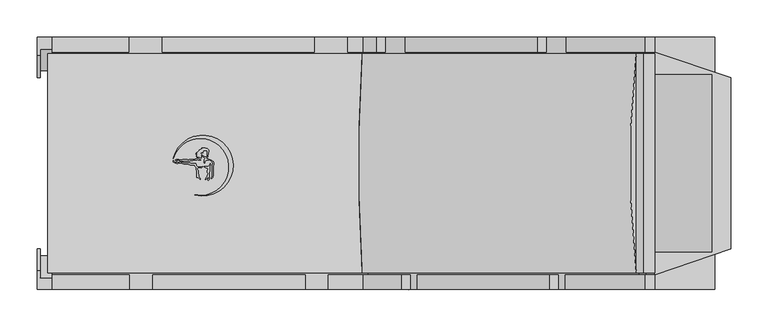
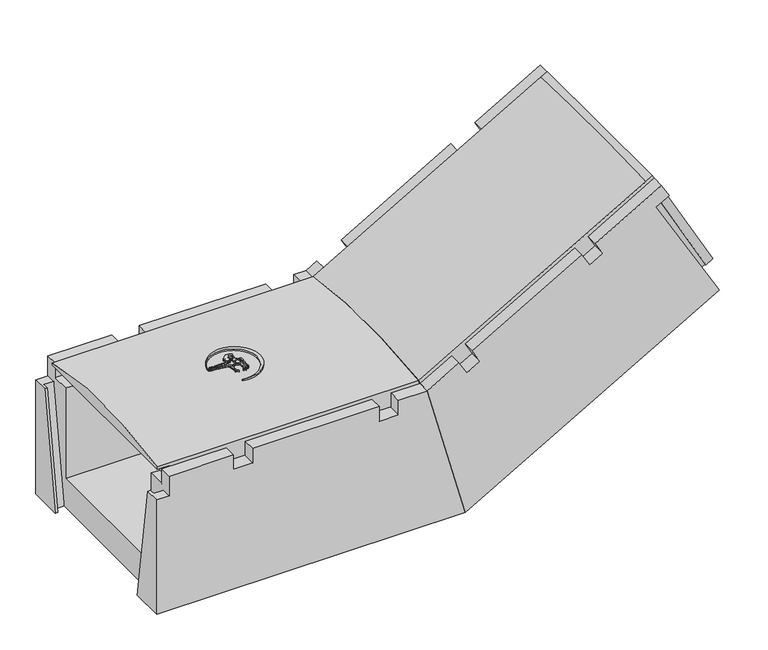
"""IFC4 building model written with IfcOpenShell, lengths in millimetres: cable carrier fitting geometry, Evotray type 2 vertical bend up : Evotray type 2 vertical bend up."""

from ifc_helpers import new_model, si_unit, point, frame, frame_2d, origin, place, context, project, spatial, polyline, circle_curve, ellipse_curve, trimmed, segment, composite_curve, outline, extrude, faceted_brep, source, transform, mapped, element, save
from ifc_brep_helpers import plane_surface, cylinder_surface, advanced_brep


def cable_carrier_fitting_ba2b0b58(model_context):
    return source(origin(), model_context, "Body", "SolidModel", [
        extrude(outline(composite_curve([segment(polyline([(-155.1987673, 5.907559), (-153.7730763, 5.0844359), (-154.4820077, 4.6751342), (-157.0469375, 4.6751342), (-159.5064308, 2.2156409), (-159.5064308, 0.6319729), (-160.5639447, 0.3486129), (-160.8953119, 1.5852919), (-160.5730905, 2.7878385), (-160.5730905, 5.0146536), (-159.1065498, 6.4811943), (-159.5064308, 7.1738084), (-160.5730905, 7.7896447), (-161.4313624, 8.2851682), (-162.4244859, 9.2782918), (-162.4244859, 10.5283487), (-161.6366917, 10.0735155), (-160.5730905, 9.0099142), (-159.5064308, 8.394078), (-157.1936661, 8.394078), (-156.5617675, 9.0259766), (-156.5617675, 10.6343813), (-156.1559104, 11.3373462), (-155.9163405, 12.2314336), (-155.9163405, 16.3268685), (-156.5617675, 16.9722955), (-160.5730905, 17.3232408), (-161.3212546, 16.8912881), (-161.7531031, 16.1433045), (-161.9754965, 15.313321), (-162.2482129, 13.7666695), (-162.8042347, 14.3226912), (-163.3698905, 14.8883471), (-164.3304254, 14.8883471), (-164.8048648, 14.0665939), (-164.8048648, 13.2416885), (-164.4028177, 12.5453225), (-163.675123, 11.8176278), (-164.0717623, 10.3373496), (-164.4092623, 9.0777826), (-164.1064549, 7.3604762), (-164.907248, 7.2192748), (-166.6376932, 7.6829462), (-167.8844025, 8.2642963), (-168.6376597, 8.6155459), (-170.2371082, 8.33352), (-169.7695498, 9.1433549), (-168.1127288, 9.7463885)]), True, "CONTINUOUS"), segment(trimmed(circle_curve(frame_2d((-168.6788564, 9.4744491)), 0.6280537), [point((-168.1127288, 9.7463885))], [point((-168.8344386, 10.0829273))], True, "CARTESIAN"), True, "CONTINUOUS"), segment(polyline([(-168.8344386, 10.0829273), (-170.7814537, 10.0829273), (-170.2232755, 10.6411054), (-169.3724958, 10.9507639), (-168.5540563, 11.2486515)]), True, "CONTINUOUS"), segment(trimmed(circle_curve(frame_2d((-169.2923812, 11.2486515)), 0.7383249), [point((-168.5540563, 11.2486515))], [point((-169.2923812, 11.9869764))], True, "CARTESIAN"), True, "CONTINUOUS"), segment(polyline([(-169.2923812, 11.9869764), (-171.0001288, 11.9869764), (-171.3916504, 12.6651117), (-169.5730583, 12.9857785), (-168.2767203, 13.457607), (-168.897473, 14.0783597), (-170.8606925, 14.0783597), (-170.30811, 14.6309421), (-169.2782773, 15.2255163), (-168.603553, 15.9002407), (-167.8807357, 16.3175594), (-166.9057237, 16.8804829)]), True, "CONTINUOUS"), segment(trimmed(circle_curve(frame_2d((-167.1167091, 17.2459203)), 0.4219708), [point((-166.9057237, 16.8804829))], [point((-167.3276945, 17.6113577))], True, "CARTESIAN"), True, "CONTINUOUS"), segment(polyline([(-167.3276945, 17.6113577), (-166.7102978, 18.2287544), (-165.4076278, 18.7028875), (-164.4125713, 19.2773836), (-163.2810347, 19.4769041), (-163.6348604, 20.4490324), (-158.6348604, 20.4490324), (-157.6206866, 19.9761154), (-156.4988316, 19.6755153), (-155.4843855, 19.0898245), (-154.3757091, 17.9811481), (-154.3757091, 15.4151328), (-154.8646262, 14.5683035), (-154.8646262, 11.8362675), (-155.3536612, 10.7875287), (-155.760463, 10.0829273), (-155.760463, 8.2341629), (-156.5617675, 7.7715296), (-157.3950459, 7.6246001)]), True, "CONTINUOUS"), segment(trimmed(circle_curve(frame_2d((-156.3420944, 7.3424626)), 1.0900956), [point((-157.3950459, 7.6246001))], [point((-156.6242319, 6.2895111))], True, "CARTESIAN"), True, "CONTINUOUS"), segment(polyline([(-156.6242319, 6.2895111), (-155.1987673, 5.907559)]), True, "CONTINUOUS")], self_intersect=False)), frame((0.0, 0.0, 229.0645802), z_axis=(0.0, 0.0, 1.0), x_axis=(1.0, 0.0, 0.0)), (0.0, 0.0, 1.0), 22.5),
        extrude(outline(polyline([(-150.6420581, 3.0525563), (-152.5647021, 4.1625953), (-151.375462, 4.4812513), (-150.0006066, 3.9808448), (-147.8744575, 2.753312), (-147.462808, 1.2170154), (-147.462808, -1.5561738), (-147.8811889, -3.9289297), (-148.2073261, -13.2682758), (-148.2073261, -16.1231727), (-148.766974, -19.297094), (-149.9259981, -20.4561181), (-150.8234867, -20.4561181), (-150.1486125, -18.6019165), (-149.8396569, -16.8497423), (-149.3251997, -13.9321102), (-149.3251997, -2.6926455), (-148.883565, -0.1880111), (-149.4260419, 1.8365401), (-150.6420581, 3.0525563)])), frame((0.0, 0.0, 229.0645802), z_axis=(0.0, 0.0, 1.0), x_axis=(1.0, 0.0, 0.0)), (0.0, 0.0, 1.0), 22.5),
        extrude(outline(composite_curve([segment(polyline([(-158.070307, -4.5554644), (-156.0881056, -4.5554644), (-154.6198413, -4.2965698), (-153.3145593, -2.9912878), (-152.1344504, -0.4605362), (-151.6534984, -1.7819409), (-152.2762062, -3.117342), (-152.9468137, -4.5554644), (-152.9468137, -10.5136603), (-153.3751928, -12.943119), (-153.3751928, -21.4242609), (-154.8238515, -22.8729196), (-155.3965887, -22.3001824), (-154.7178687, -20.5578122), (-154.4597233, -19.0937972)]), True, "CONTINUOUS"), segment(trimmed(circle_curve(frame_2d((-154.8743713, -19.0937972)), 0.414648), [point((-154.4597233, -19.0937972))], [point((-155.2890194, -19.0937972))], True, "CARTESIAN"), True, "CONTINUOUS"), segment(polyline([(-155.2890194, -19.0937972), (-156.0547081, -19.8594859), (-157.3215546, -21.3692548), (-157.9770637, -22.0247639), (-158.7693849, -21.6552984), (-156.605165, -18.4467105), (-156.2992553, -16.7118106), (-155.4571975, -14.9060116), (-155.19999, -13.4473154), (-155.9884987, -12.0815782), (-155.9884987, -9.315031), (-154.6653502, -7.4454743)]), True, "CONTINUOUS"), segment(trimmed(circle_curve(frame_2d((-155.0024552, -7.2068937)), 0.4129897), [point((-154.6653502, -7.4454743))], [point((-155.2410358, -6.8697887))], True, "CARTESIAN"), True, "CONTINUOUS"), segment(polyline([(-155.2410358, -6.8697887), (-157.2448508, -6.516462), (-158.6887473, -5.843162), (-160.508748, -4.9944818), (-160.508748, -4.1255015), (-158.070307, -4.5554644)]), True, "CONTINUOUS")], self_intersect=False)), frame((0.0, 0.0, 229.0645802), z_axis=(0.0, 0.0, 1.0), x_axis=(1.0, 0.0, 0.0)), (0.0, 0.0, 1.0), 22.5),
        extrude(outline(composite_curve([segment(polyline([(-200.4819029, 2.2537302), (-198.7462291, 1.4443722), (-194.5597552, 1.4443722), (-193.4890341, 1.731271), (-192.1624965, 1.731271), (-190.4413877, 1.4443722), (-188.4350656, 0.9067798), (-187.2818775, 0.597784), (-181.5899708, 0.597784), (-178.9734749, 0.1616293), (-177.6459123, -0.19409), (-172.03167, -0.19409)]), True, "CONTINUOUS"), segment(trimmed(circle_curve(frame_2d((-163.1781038, 2.7115165)), 9.3181642), [point((-172.03167, -0.19409))], [point((-168.6774022, -4.8108435))], True, "CARTESIAN"), True, "CONTINUOUS"), segment(polyline([(-168.6774022, -4.8108435), (-165.6256174, -4.8108435), (-163.5910388, -4.632841), (-162.4520349, -4.1017147), (-162.7095548, -5.0627921), (-163.6536491, -5.6078652), (-164.612336, -5.9567987), (-167.847041, -5.8438403), (-169.0357356, -6.2764898), (-169.44473, -7.153581), (-169.3696494, -8.0117562), (-168.8907652, -8.8412079), (-168.1701597, -9.5618134), (-168.1701597, -11.3180259), (-168.53546, -12.3216801), (-168.3911934, -13.970655), (-167.8861011, -15.8556852), (-167.737982, -17.5486944), (-165.3666469, -20.2766033), (-165.5753239, -21.4600691), (-168.1701597, -18.8652332), (-169.1329913, -19.1232231), (-170.5361675, -18.8758053), (-170.2606072, -18.1187094), (-170.2606072, -15.8446539), (-170.0850033, -14.8487551), (-170.2606072, -12.8415943), (-170.6362696, -11.8094702), (-170.6362696, -9.9842873), (-171.0826053, -9.0271173), (-171.0826053, -6.6493678), (-171.3310455, -5.7221762), (-171.7830159, -4.9393406), (-172.2317276, -4.1621491), (-172.84617, -3.5477067), (-173.2800213, -2.6173096), (-176.8809595, -2.4915621), (-179.2251115, -2.1008055), (-181.2577048, -1.5561738), (-184.5993244, -1.2049554), (-186.6789374, -1.2049554), (-188.021172, -0.8453047), (-189.5447671, -0.4370587), (-190.8880204, 0.1893106), (-191.8824091, 0.1893106), (-194.5338495, 0.1893106), (-195.6460936, -0.1087143), (-197.5093755, 0.0871245), (-198.9984504, 0.3353447), (-200.6717579, 1.1156208), (-201.6476843, 2.0915471), (-202.2867674, 2.7306302), (-202.2867674, 3.5175099), (-200.4819029, 2.2537302)]), True, "CONTINUOUS")], self_intersect=False)), frame((0.0, 0.0, 229.0645802), z_axis=(0.0, 0.0, 1.0), x_axis=(1.0, 0.0, 0.0)), (0.0, 0.0, 1.0), 22.5),
        extrude(outline(composite_curve([segment(polyline([(-197.9796703, 3.7977023), (-196.956356, 3.2068915), (-198.6840165, 3.7265624), (-199.014163, 4.6441261), (-198.1758386, 5.4824506), (-195.30302, 5.4824506), (-194.318583, 5.0847122), (-193.2280942, 4.6441261), (-192.4299007, 4.1832889), (-191.1696706, 4.1832889), (-190.3486455, 4.4787), (-189.4633932, 4.9898007), (-183.0496883, 4.9898007), (-182.1941137, 4.6441261), (-181.1237116, 4.6441261), (-180.1629915, 4.9898007), (-178.9838348, 4.9898007), (-178.2654957, 5.4045339), (-172.8528405, 5.4045339), (-172.0925598, 5.6780888), (-170.8504018, 5.6780888), (-170.2746333, 6.2538574), (-168.3170698, 6.2538574), (-167.0290688, 5.7334711), (-166.0171524, 5.1492409), (-165.2127113, 4.8242256)]), True, "CONTINUOUS"), segment(trimmed(circle_curve(frame_2d((-165.6200436, 4.6596527)), 0.4393221), [point((-165.2127113, 4.8242256))], [point((-165.7846166, 4.2523203))], False, "CARTESIAN"), True, "CONTINUOUS"), segment(polyline([(-165.7846166, 4.2523203), (-166.8003453, 4.6627013), (-168.112003, 4.6627013), (-169.382433, 4.8867124), (-170.1944574, 4.5945398), (-171.3374314, 4.1832889), (-174.6816293, 4.1832889), (-175.4727027, 3.7265624), (-179.0400229, 3.7265624), (-179.9228853, 3.2168416), (-189.9228853, 3.2168416), (-192.5335493, 2.9884381), (-196.222077, 4.4787), (-198.3728446, 4.4787), (-197.9796703, 3.7977023)]), True, "CONTINUOUS")], self_intersect=False)), frame((0.0, 0.0, 229.0645802), z_axis=(0.0, 0.0, 1.0), x_axis=(1.0, 0.0, 0.0)), (0.0, 0.0, 1.0), 22.5),
        extrude(outline(composite_curve([segment(trimmed(circle_curve(frame_2d((-165.3994103, -4.8721323)), 38.3616107), [point((-172.8072471, -42.511701))], [point((-202.1109456, 6.2578432))], True, "CARTESIAN"), True, "CONTINUOUS"), segment(trimmed(circle_curve(frame_2d((-162.2700096, -2.9917986)), 40.900563), [point((-202.1109456, 6.2578432))], [point((-172.8072471, -42.511701))], False, "CARTESIAN"), True, "CONTINUOUS")], self_intersect=False)), frame((0.0, 0.0, 229.0645802), z_axis=(0.0, 0.0, 1.0), x_axis=(1.0, 0.0, 0.0)), (0.0, 0.0, 1.0), 22.5),
        advanced_brep(
        [(60.0704156, -147.5, 205.0), (445.5127019, -147.5, 427.5352078), (431.0247302, -147.5, 452.6291108), (420.6324254, -147.5, 446.6291108), (52.299889, -147.5, 234.0), (445.5127019, 147.5, 427.5352078), (60.0704156, 147.5, 205.0), (52.299889, 147.5, 234.0), (420.620397, 147.5, 446.6499445), (431.0247302, 147.5, 452.6291108)],
        [
            (0, 1),
            (1, 2),
            (2, 3),
            (3, 4),
            (4, 0),
            (5, 6),
            (6, 7),
            (7, 8),
            (8, 9),
            (9, 5),
            (1, 5),
            (9, 2),
            (6, 0),
            (4, 7, ellipse_curve(frame((222.6174178, 0.0, -401.633671), z_axis=(-0.965925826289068, 0.0, -0.2588190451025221), x_axis=(-0.25881904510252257, 0.0, 0.9659258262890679)), 675.5416366, 652.5231135)),
            (8, 3),
            (8, 3, circle_curve(frame((738.4372325, 0.0, -103.8249621), z_axis=(0.8660254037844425, 0.0, 0.49999999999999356), x_axis=(0.0, -1.0, 0.0)), 652.5231135)),
        ],
        [
            plane_surface(frame((445.5127019, -147.5, 427.5352078), z_axis=(0.0, -1.0, 0.0), x_axis=(-0.4999999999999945, 0.0, 0.8660254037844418))),
            plane_surface(frame((445.5127019, 147.5, 427.5352078), z_axis=(0.0, 1.0, 0.0), x_axis=(0.4999999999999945, 0.0, -0.8660254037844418))),
            plane_surface(frame((445.5127019, -147.5, 427.5352078), z_axis=(0.8660254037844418, 0.0, 0.4999999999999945), x_axis=(0.0, 1.0, 0.0))),
            plane_surface(frame((47.7447527, -147.5, 251.0), z_axis=(-0.965925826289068, 0.0, -0.2588190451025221), x_axis=(0.0, 1.0, 0.0))),
            plane_surface(frame((60.0704156, -147.5, 205.0), z_axis=(0.4999999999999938, 0.0, -0.8660254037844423), x_axis=(0.0, 1.0, 0.0))),
            plane_surface(frame((431.0247302, -147.5, 452.6291108), z_axis=(-0.49999999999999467, 0.0, 0.8660254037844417), x_axis=(-0.8660254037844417, 0.0, -0.49999999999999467))),
            plane_surface(frame((420.6324254, -147.5, 446.6291108), z_axis=(0.8660254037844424, 0.0, 0.4999999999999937), x_axis=(-0.4999999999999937, 0.0, 0.8660254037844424))),
            cylinder_surface(frame((368.7244196, 0.0, -317.2787542), z_axis=(0.8660254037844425, 0.0, 0.49999999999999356), x_axis=(0.0, -1.0, 0.0)), 652.5231135),
        ],
        [
            (0, [[1, 2, 3, 4, 5]]),
            (1, [[6, 7, 8, 9, 10]]),
            (2, [[11, -10, 12, -2]]),
            (3, [[13, -5, 14, -7]]),
            (4, [[-1, -13, -6, -11]]),
            (5, [[15, -3, -12, -9]]),
            (6, [[-15, 16]]),
            (7, [[-4, -16, -8, -14]]),
        ],
    ),
        advanced_brep(
        [(-351.0, -147.5, 205.0), (60.0704156, -147.5, 205.0), (52.299889, -147.5, 234.0), (-371.0, -147.5, 234.0), (-371.0, -147.5, 230.0), (-351.0, -147.5, 230.0), (60.0704156, 147.5, 205.0), (-351.0, 147.5, 205.0), (-351.0, 147.5, 230.0), (-371.0, 147.5, 230.0), (-371.0, 147.5, 234.0), (52.299889, 147.5, 234.0)],
        [
            (0, 1),
            (1, 2),
            (2, 3),
            (3, 4),
            (4, 5),
            (5, 0),
            (6, 7),
            (7, 8),
            (8, 9),
            (9, 10),
            (10, 11),
            (11, 6),
            (9, 4),
            (3, 10, circle_curve(frame((-371.0, 0.0, -401.633671), z_axis=(-1.0, 0.0, 0.0), x_axis=(0.0, -1.0, 0.0)), 652.5231135)),
            (6, 1),
            (0, 7),
            (11, 2, ellipse_curve(frame((222.6174178, 0.0, -401.633671), z_axis=(0.9659258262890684, 0.0, 0.25881904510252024), x_axis=(0.25881904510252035, 0.0, -0.9659258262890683)), 675.5416366, 652.5231135)),
            (8, 5),
        ],
        [
            plane_surface(frame((-371.0, -147.5, 205.0), z_axis=(0.0, -1.0, 0.0), x_axis=(0.0, 0.0, -1.0))),
            plane_surface(frame((-371.0, 147.5, 205.0), z_axis=(0.0, 1.0, 0.0), x_axis=(0.0, 0.0, 1.0))),
            plane_surface(frame((-371.0, -147.5, 251.0), z_axis=(-1.0, 0.0, 0.0), x_axis=(0.0, 1.0, 0.0))),
            plane_surface(frame((-371.0, -147.5, 205.0), z_axis=(0.0, 0.0, -1.0), x_axis=(0.0, 1.0, 0.0))),
            plane_surface(frame((60.0704156, -147.5, 205.0), z_axis=(0.9659258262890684, 0.0, 0.25881904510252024), x_axis=(0.0, 1.0, 0.0))),
            plane_surface(frame((-371.0, 147.5, 230.0), z_axis=(0.0, 0.0, -1.0), x_axis=(-1.0, 0.0, 0.0))),
            plane_surface(frame((-351.0, -147.5, 230.0), z_axis=(-1.0, 0.0, 0.0), x_axis=(0.0, 0.0, -1.0))),
            cylinder_surface(frame((-371.0, 0.0, -401.633671), z_axis=(1.0, 0.0, 0.0), x_axis=(0.0, -1.0, 0.0)), 652.5231135),
        ],
        [
            (0, [[1, 2, 3, 4, 5, 6]]),
            (1, [[7, 8, 9, 10, 11, 12]]),
            (2, [[13, -4, 14, -10]]),
            (3, [[15, -1, 16, -7]]),
            (4, [[-15, -12, 17, -2]]),
            (5, [[18, -5, -13, -9]]),
            (6, [[-18, -8, -16, -6]]),
            (7, [[-3, -17, -11, -14]]),
        ],
    ),
        faceted_brep([(53.3716857, -170.0, 230.0), (115.0, -170.0, 0.0), (526.3620668, -170.0, 237.5), (423.8620668, -170.0, 415.0352078), (445.5127019, -170.0, 427.5352078), (433.0127019, -170.0, 449.1858429), (325.6255518, -170.0, 387.1858429), (338.1255518, -170.0, 365.5352078), (316.4749167, -170.0, 353.0352078), (303.9749167, -170.0, 374.6858429), (126.439709, -170.0, 272.1858429), (138.939709, -170.0, 250.5352078), (117.2890739, -170.0, 238.0352078), (104.7890739, -170.0, 259.6858429), (115.0, 170.0, 0.0), (53.3716857, 170.0, 230.0), (71.0140831, 170.0, 240.1858429), (83.5140831, 170.0, 218.5352078), (122.4852263, 170.0, 241.0352078), (109.9852263, 170.0, 262.6858429), (287.5204341, 170.0, 365.1858429), (300.0204341, 170.0, 343.5352078), (338.9915772, 170.0, 366.0352078), (326.4915772, 170.0, 387.6858429), (433.0127019, 170.0, 449.1858429), (445.5127019, 170.0, 427.5352078), (423.8620668, 170.0, 415.0352078), (526.3620668, 170.0, 237.5), (445.5127019, -120.0, 427.5352078), (445.5127019, -150.0, 427.5352078), (548.0127019, -115.4, 250.0), (548.0127019, 115.4, 250.0), (445.5127019, 150.0, 427.5352078), (445.5127019, 120.0, 427.5352078), (523.0127019, 120.0, 293.3012702), (523.0127019, -120.0, 293.3012702), (433.0127019, -150.0, 449.1858429), (433.0127019, 150.0, 449.1858429), (303.9749167, -150.0, 374.6858429), (126.439709, -150.0, 272.1858429), (109.9852263, 150.0, 262.6858429), (287.5204341, 150.0, 365.1858429), (325.6255518, -150.0, 387.1858429), (326.4915772, 150.0, 387.6858429), (53.3716857, -150.0, 230.0), (104.7890739, -150.0, 259.6858429), (53.3716857, 150.0, 230.0), (71.0140831, 150.0, 240.1858429), (60.0704156, -150.0, 205.0), (60.0704156, -120.0, 205.0), (101.6025404, -120.0, 50.0), (101.6025404, 120.0, 50.0), (60.0704156, 120.0, 205.0), (60.0704156, 150.0, 205.0), (526.3620668, 113.0, 237.5), (536.7543716, 113.0, 243.5), (536.7543716, 115.4, 243.5), (536.7543716, -115.4, 243.5), (536.7543716, -113.0, 243.5), (526.3620668, -113.0, 237.5), (434.2543716, -150.0, 421.0352078), (423.8620668, -150.0, 415.0352078), (338.1255518, -150.0, 365.5352078), (316.4749167, -150.0, 353.0352078), (138.939709, -150.0, 250.5352078), (117.2890739, -150.0, 238.0352078), (338.9915772, 150.0, 366.0352078), (423.8620668, 150.0, 415.0352078), (434.2543716, 150.0, 421.0352078), (122.4852263, 150.0, 241.0352078), (300.0204341, 150.0, 343.5352078), (83.5140831, 150.0, 218.5352078), (423.8620668, -147.6, 415.0352078), (434.2543716, -147.6, 421.0352078), (434.2543716, 147.6, 421.0352078), (423.8620668, 147.6, 415.0352078)], [[[0, 1, 2, 3, 4, 5, 6, 7, 8, 9, 10, 11, 12, 13]], [[14, 15, 16, 17, 18, 19, 20, 21, 22, 23, 24, 25, 26, 27]], [[28, 29, 30, 31, 32, 33, 34, 35]], [[36, 5, 4, 29]], [[24, 37, 32, 25]], [[10, 9, 38, 39]], [[20, 19, 40, 41]], [[5, 36, 42, 6]], [[37, 24, 23, 43]], [[44, 0, 13, 45]], [[15, 46, 47, 16]], [[1, 0, 44, 48, 49, 50, 51, 52, 53, 46, 15, 14]], [[1, 14, 27, 54, 55, 56, 31, 30, 57, 58, 59, 2]], [[36, 29, 60, 61, 62, 42]], [[39, 38, 63, 64]], [[48, 44, 45, 65]], [[32, 37, 43, 66, 67, 68]], [[41, 40, 69, 70]], [[46, 53, 71, 47]], [[49, 48, 65, 12, 11, 64, 63, 8, 7, 62, 61, 72, 73, 60, 29, 28]], [[53, 52, 33, 32, 68, 74, 75, 67, 66, 22, 21, 70, 69, 18, 17, 71]], [[35, 50, 49, 28]], [[51, 34, 33, 52]], [[50, 35, 34, 51]], [[60, 29, 4, 3, 61]], [[29, 60, 57, 30]], [[32, 68, 67, 26, 25]], [[68, 32, 31, 56]], [[58, 73, 72, 59]], [[59, 72, 61, 3, 2]], [[73, 58, 57, 60]], [[54, 75, 74, 55]], [[75, 54, 27, 26, 67]], [[55, 74, 68, 56]], [[70, 21, 20, 41]], [[22, 66, 43, 23]], [[62, 7, 6, 42]], [[8, 63, 38, 9]], [[71, 17, 16, 47]], [[18, 69, 40, 19]], [[64, 11, 10, 39]], [[12, 65, 45, 13]]]),
        faceted_brep([(-385.0, -170.0, 0.0), (115.0, -170.0, 0.0), (53.3716857, -170.0, 230.0), (6.6963481, -170.0, 230.0), (6.6963481, -170.0, 205.0), (-24.6518259, -170.0, 205.0), (-24.6518259, -170.0, 230.0), (-229.6518259, -170.0, 230.0), (-229.6518259, -170.0, 205.0), (-261.0, -170.0, 205.0), (-261.0, -170.0, 230.0), (-365.0130369, -170.0, 230.0), (-365.0130369, -170.0, 196.0), (-385.0, -170.0, 196.0), (53.3716857, 170.0, 230.0), (115.0, 170.0, 0.0), (-385.0, 170.0, 0.0), (-385.0, 170.0, 196.0), (-365.0130369, 170.0, 196.0), (-365.0130369, 170.0, 230.0), (-262.0, 170.0, 230.0), (-262.0, 170.0, 205.0), (-217.0, 170.0, 205.0), (-217.0, 170.0, 230.0), (-12.0, 170.0, 230.0), (-12.0, 170.0, 205.0), (33.0, 170.0, 205.0), (33.0, 170.0, 230.0), (-24.6518259, -150.0, 230.0), (-229.6518259, -150.0, 230.0), (-217.0, 150.0, 230.0), (-12.0, 150.0, 230.0), (53.3716857, -150.0, 230.0), (6.6963481, -150.0, 230.0), (53.3716857, 150.0, 230.0), (33.0, 150.0, 230.0), (-365.0130369, -150.0, 230.0), (-261.0, -150.0, 230.0), (-365.0130369, 150.0, 230.0), (-262.0, 150.0, 230.0), (-385.0, -115.45, 0.0), (-385.0, -144.8926087, 196.0), (-385.0, 115.45, 0.0), (-385.0, 144.8926087, 196.0), (-381.0, -115.45, 0.0), (-381.0, -124.6, 0.0), (-365.0, -124.6, 0.0), (-365.0, 124.6, 0.0), (-381.0, 124.6, 0.0), (-381.0, 115.45, 0.0), (60.0704156, 150.0, 205.0), (60.0704156, 120.0, 205.0), (101.6025404, 120.0, 50.0), (101.6025404, -120.0, 50.0), (60.0704156, -120.0, 205.0), (60.0704156, -150.0, 205.0), (-381.0, 144.8926087, 196.0), (-381.0, -144.8926087, 196.0), (-365.0, 154.0426087, 196.0), (-381.0, 154.0426087, 196.0), (-381.0, -154.0426087, 196.0), (-365.0, -154.0426087, 196.0), (-365.0, -150.0, 205.0), (-365.0, -147.5, 205.0), (-365.0, -120.0, 205.0), (-365.0, -120.0, 50.0), (-365.0, 120.0, 50.0), (-365.0, 120.0, 205.0), (-365.0, 147.5, 205.0), (-365.0, 150.0, 205.0), (-24.6518259, -150.0, 205.0), (-229.6518259, -150.0, 205.0), (6.6963481, -150.0, 205.0), (-261.0, -150.0, 205.0), (-217.0, 150.0, 205.0), (-12.0, 150.0, 205.0), (33.0, 150.0, 205.0), (-262.0, 150.0, 205.0), (-351.0, 120.0, 205.0), (-351.0, -120.0, 205.0)], [[[0, 1, 2, 3, 4, 5, 6, 7, 8, 9, 10, 11, 12, 13]], [[14, 15, 16, 17, 18, 19, 20, 21, 22, 23, 24, 25, 26, 27]], [[7, 6, 28, 29]], [[24, 23, 30, 31]], [[2, 32, 33, 3]], [[34, 14, 27, 35]], [[36, 11, 10, 37]], [[19, 38, 39, 20]], [[40, 0, 13, 41]], [[16, 42, 43, 17]], [[1, 0, 40, 44, 45, 46, 47, 48, 49, 42, 16, 15]], [[2, 1, 15, 14, 34, 50, 51, 52, 53, 54, 55, 32]], [[42, 49, 56, 43]], [[44, 40, 41, 57]], [[48, 47, 58, 59]], [[45, 44, 57, 60]], [[49, 48, 59, 56]], [[46, 45, 60, 61]], [[47, 46, 61, 12, 11, 36, 62, 63, 64, 65, 66, 67, 68, 69, 38, 19, 18, 58]], [[12, 61, 60, 57, 41, 13]], [[58, 18, 17, 43, 56, 59]], [[29, 28, 70, 71]], [[32, 55, 72, 33]], [[62, 36, 37, 73]], [[31, 30, 74, 75]], [[50, 34, 35, 76]], [[38, 69, 77, 39]], [[51, 50, 76, 26, 25, 75, 74, 22, 21, 77, 69, 68, 67, 78]], [[55, 54, 79, 64, 63, 62, 73, 9, 8, 71, 70, 5, 4, 72]], [[53, 65, 64, 79, 54]], [[66, 52, 51, 78, 67]], [[65, 53, 52, 66]], [[77, 21, 20, 39]], [[22, 74, 30, 23]], [[9, 73, 37, 10]], [[71, 8, 7, 29]], [[75, 25, 24, 31]], [[26, 76, 35, 27]], [[5, 70, 28, 6]], [[72, 4, 3, 33]]]),
    ])


if __name__ == "__main__":
    model = new_model("IFC4")
    model_context = context("Model", 3, world=origin())
    ifc_project = project(units=[si_unit("LENGTHUNIT", "METRE", prefix="MILLI")], contexts=[model_context])
    site = spatial("IfcSite", under=ifc_project)
    building = spatial("IfcBuilding", under=site)
    placement = place(None, origin())
    cable_carrier_fitting_shape = cable_carrier_fitting_ba2b0b58(model_context)
    element("IfcCableCarrierFitting", 1, ObjectType="Evotray type 2 vertical bend up : Evotray type 2 vertical bend up", at=placement, inside=building, context=model_context, shape_type="MappedRepresentation", body=[
        mapped(cable_carrier_fitting_shape, transform((0.0, 0.0, 0.0), x_axis=(1.0, 0.0, 0.0), y_axis=(0.0, 1.0, 0.0), z_axis=(0.0, 0.0, 1.0))),
    ])
    save(model, "model.ifc")
